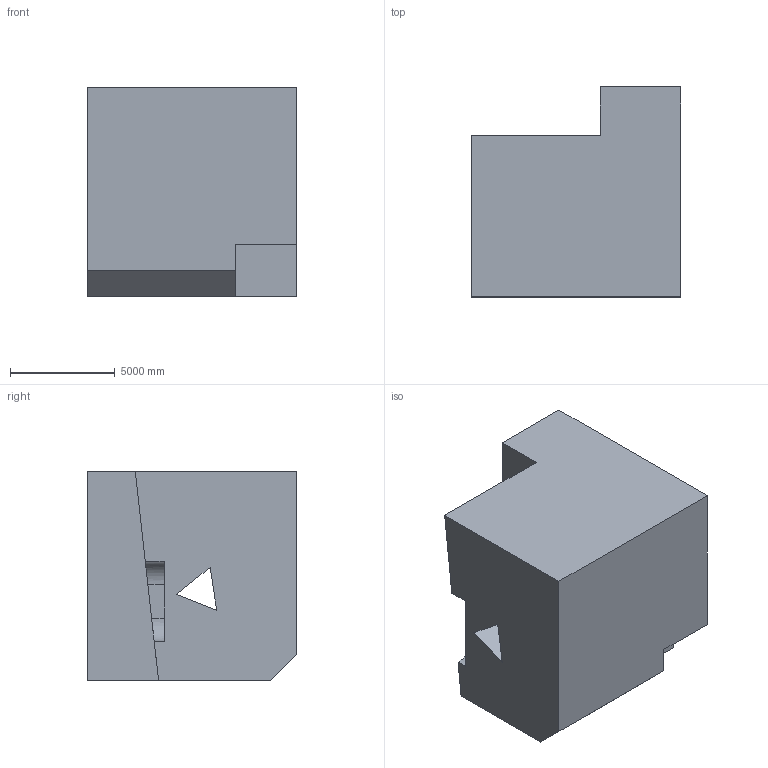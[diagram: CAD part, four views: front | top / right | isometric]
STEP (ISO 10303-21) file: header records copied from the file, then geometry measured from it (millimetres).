
FILE_DESCRIPTION (( 'STEP AP203' ), '1' );
FILE_NAME ('1597.STEP', '2022-08-18T16:03:01', ( 'user' ), ( '' ), 'SwSTEP 2.0', 'SolidWorks 2021', '' );
FILE_SCHEMA (( 'CONFIG_CONTROL_DESIGN' ));
Length unit declared in the file: centimetre
Products named in the file (1): 1597
Bounding box: 10000 x 10000 x 10000 mm (x, y, z)
Volume: 779061648583.1 mm3; surface area: 627542967.3 mm2
Topology: 1 solids, 1 shells, 23 faces, 60 edges, 40 vertices
Faces by surface type: plane 21, cylinder 2
Entity records: 777 total; most frequent: CARTESIAN_POINT 130, ORIENTED_EDGE 120, DIRECTION 108, EDGE_CURVE 60, VECTOR 56, LINE 56, VERTEX_POINT 40, EDGE_LOOP 26
